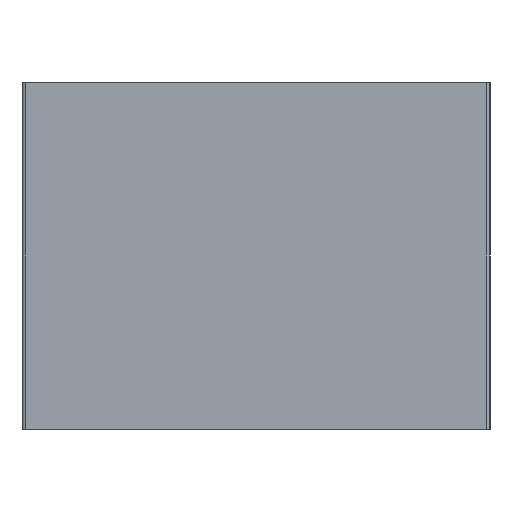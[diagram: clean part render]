
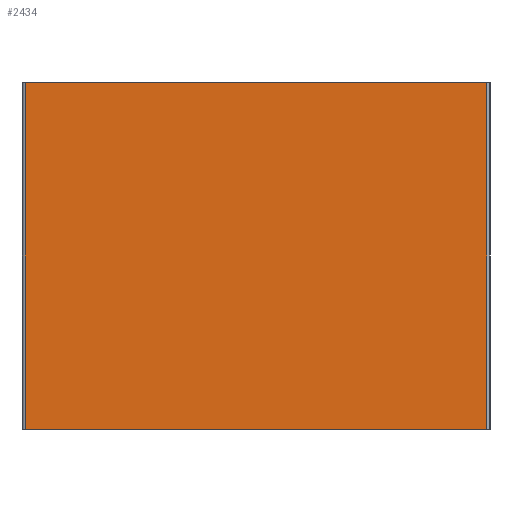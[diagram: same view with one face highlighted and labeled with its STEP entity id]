
A CAD part, left-side view. The second image highlights one B-rep face of the part: STEP entity #2434.
In plain terms, the highlighted planar face has unit normal (-1, 0, 0).
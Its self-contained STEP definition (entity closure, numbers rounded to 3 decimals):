
#12 = EDGE_LOOP ( 'NONE', ( #60, #30, #74, #27 ) ) ;
#27 = ORIENTED_EDGE ( 'NONE', *, *, #2141, .T. ) ;
#30 = ORIENTED_EDGE ( 'NONE', *, *, #2688, .F. ) ;
#60 = ORIENTED_EDGE ( 'NONE', *, *, #2206, .T. ) ;
#74 = ORIENTED_EDGE ( 'NONE', *, *, #86, .F. ) ;
#86 = EDGE_CURVE ( 'NONE', #2131, #1768, #486, .T. ) ;
#224 = LINE ( 'NONE', #225, #226 ) ;
#225 = CARTESIAN_POINT ( 'NONE',  ( -55.75, 0.5, 0. ) ) ;
#226 = VECTOR ( 'NONE', #227, 1000. ) ;
#227 = DIRECTION ( 'NONE',  ( 0., -1., 0. ) ) ;
#304 = VERTEX_POINT ( 'NONE', #970 ) ;
#322 = LINE ( 'NONE', #324, #325 ) ;
#324 = CARTESIAN_POINT ( 'NONE',  ( -55.75, 0.5, 50. ) ) ;
#325 = VECTOR ( 'NONE', #326, 1000. ) ;
#326 = DIRECTION ( 'NONE',  ( 0., 0., -1. ) ) ;
#486 = LINE ( 'NONE', #487, #488 ) ;
#487 = CARTESIAN_POINT ( 'NONE',  ( -55.75, 0.5, 50. ) ) ;
#488 = VECTOR ( 'NONE', #489, 1000. ) ;
#489 = DIRECTION ( 'NONE',  ( 0., -1., 0. ) ) ;
#970 = CARTESIAN_POINT ( 'NONE',  ( -55.75, 67., 0. ) ) ;
#1086 = CARTESIAN_POINT ( 'NONE',  ( -55.75, 67., 50. ) ) ;
#1150 = LINE ( 'NONE', #1151, #1152 ) ;
#1151 = CARTESIAN_POINT ( 'NONE',  ( -55.75, 67., 50. ) ) ;
#1152 = VECTOR ( 'NONE', #1153, 1000. ) ;
#1153 = DIRECTION ( 'NONE',  ( 0., 0., -1. ) ) ;
#1479 = FACE_OUTER_BOUND ( 'NONE', #12, .T. ) ;
#1480 = PLANE ( 'NONE',  #1481 ) ;
#1481 = AXIS2_PLACEMENT_3D ( 'NONE', #1482, #1483, #1484 ) ;
#1482 = CARTESIAN_POINT ( 'NONE',  ( -55.75, 0.5, 50. ) ) ;
#1483 = DIRECTION ( 'NONE',  ( 1., 0., 0. ) ) ;
#1484 = DIRECTION ( 'NONE',  ( 0., 0., -1. ) ) ;
#1768 = VERTEX_POINT ( 'NONE', #1782 ) ;
#1782 = CARTESIAN_POINT ( 'NONE',  ( -55.75, 0.5, 50. ) ) ;
#1878 = CARTESIAN_POINT ( 'NONE',  ( -55.75, 0.5, 0. ) ) ;
#2131 = VERTEX_POINT ( 'NONE', #1086 ) ;
#2141 = EDGE_CURVE ( 'NONE', #2131, #304, #1150, .T. ) ;
#2206 = EDGE_CURVE ( 'NONE', #304, #2535, #224, .T. ) ;
#2434 = ADVANCED_FACE ( 'NONE', ( #1479 ), #1480, .F. ) ;
#2535 = VERTEX_POINT ( 'NONE', #1878 ) ;
#2688 = EDGE_CURVE ( 'NONE', #1768, #2535, #322, .T. ) ;
